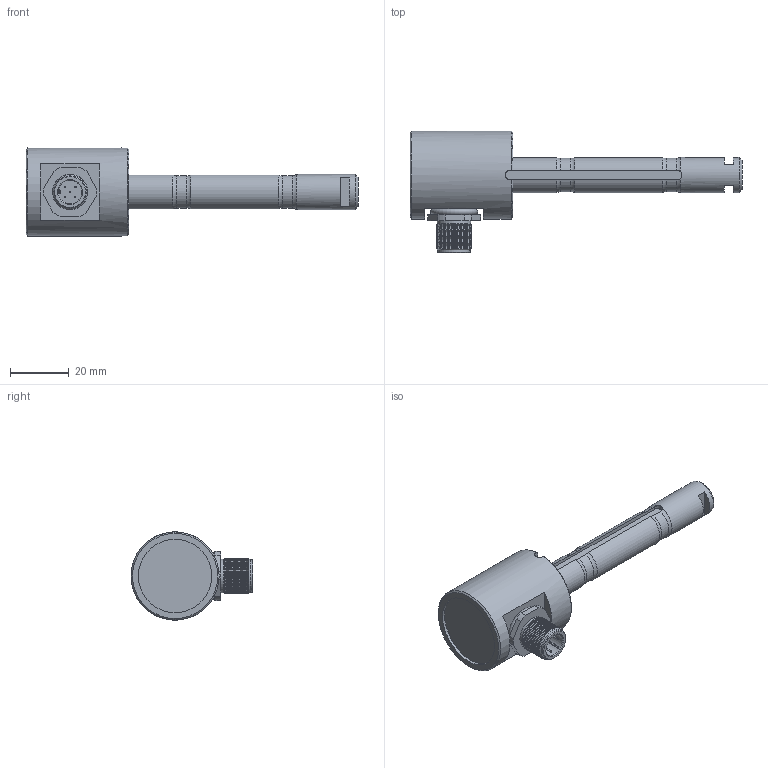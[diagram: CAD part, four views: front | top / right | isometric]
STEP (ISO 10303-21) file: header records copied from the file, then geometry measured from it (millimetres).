
FILE_DESCRIPTION(/* description */ ('Alibre Inc.'),/* implementation_level */ '2;1');
FILE_NAME(/* name */ 'export-638E75BE-B839-45D2-BEFC-C293D3787944',/* time_stamp */ '2022-05-02T16:04:14+02:00',/* author */ (''),/* organization */ (''),/* preprocessor_version */ 'ST-DEVELOPER v17',/* originating_system */ 'Alibre',/* authorisation */ '');
FILE_SCHEMA (('CONFIG_CONTROL_DESIGN'));
Length unit declared in the file: millimetre
Bounding box: 113 x 41.5 x 30 mm (x, y, z)
Surface area: 162172.8 mm2
Topology: 7 solids, 8 shells, 216 faces, 478 edges, 287 vertices
Faces by surface type: cone 73, cylinder 71, plane 62, torus 10
Full cylindrical faces by diameter (mm): 0.5 x10, 8 x2, 10 x1, 11 x1, 11.5 x1, 12 x22, 13 x2, 14.5 x1, 25 x1, 30 x1
Entity records: 5240 total; most frequent: CARTESIAN_POINT 1147, ORIENTED_EDGE 750, DIRECTION 672, EDGE_CURVE 369, EDGE_LOOP 331, FACE_BOUND 331, AXIS2_PLACEMENT_3D 313, VERTEX_POINT 272
